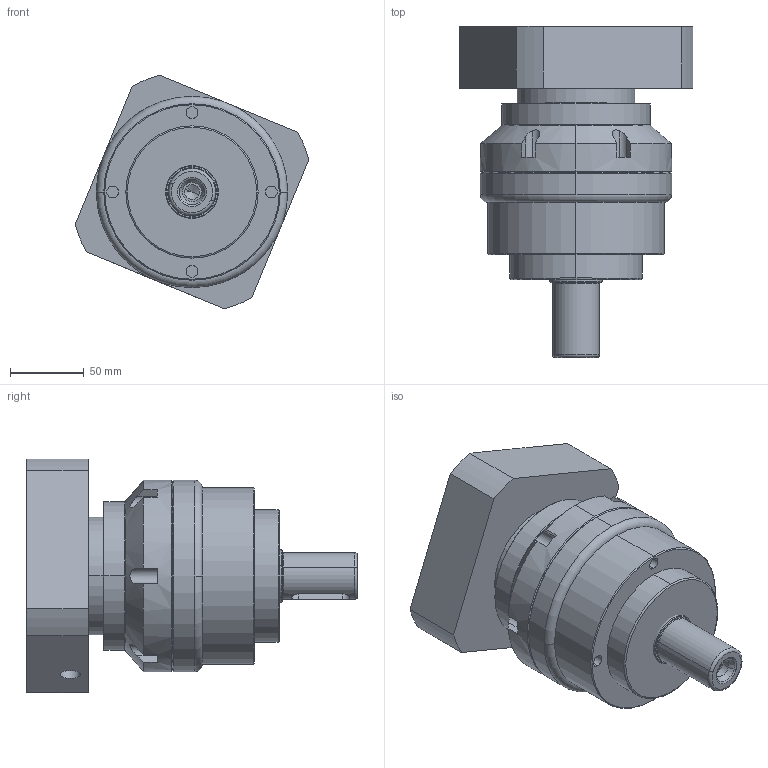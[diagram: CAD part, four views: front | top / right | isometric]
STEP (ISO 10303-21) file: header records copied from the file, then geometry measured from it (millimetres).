
FILE_DESCRIPTION (( 'STEP AP203' ), '1' );
FILE_NAME ('TE120-L2-19-95-115-M8-50.5-12-耀倰.STEP', '2021-02-02T00:38:12', ( 'Windows 蚚誧' ), ( 'Microsoft' ), 'SwSTEP 2.0', 'SolidWorks 2017', '' );
FILE_SCHEMA (( 'CONFIG_CONTROL_DESIGN' ));
Length unit declared in the file: millimetre
Products named in the file (1): TE120-L2-19-95-115-M8-50.5-12-耀倰
Bounding box: 158.95 x 225 x 158.95 mm (x, y, z)
Volume: 1642880.3 mm3; surface area: 210275.3 mm2
Topology: 7 solids, 7 shells, 312 faces, 753 edges, 477 vertices
Faces by surface type: cylinder 139, plane 94, cone 67, torus 12
Entity records: 9872 total; most frequent: CARTESIAN_POINT 2341, DIRECTION 1645, ORIENTED_EDGE 1486, EDGE_CURVE 743, AXIS2_PLACEMENT_3D 677, VERTEX_POINT 477, EDGE_LOOP 382, CIRCLE 364
